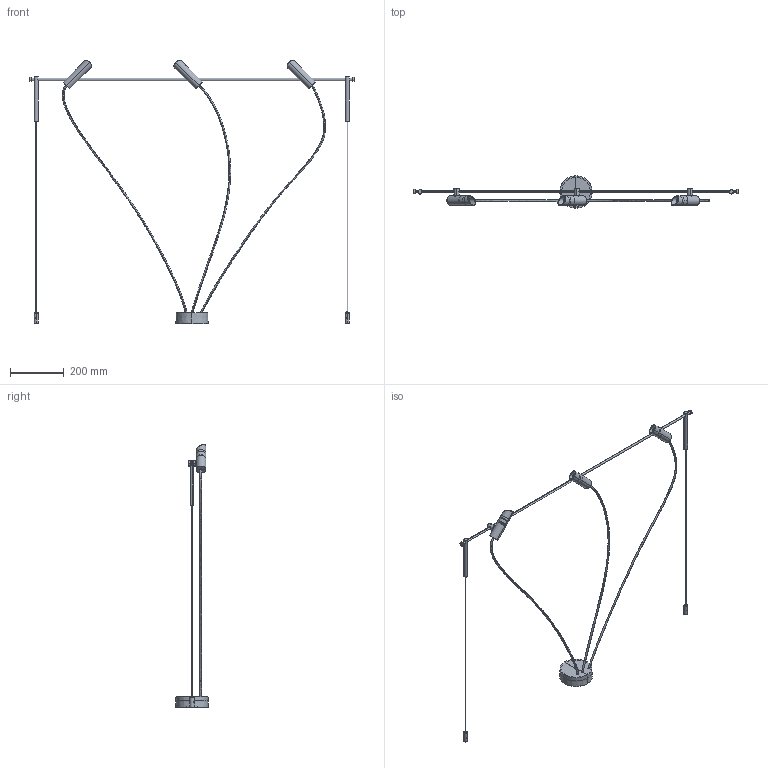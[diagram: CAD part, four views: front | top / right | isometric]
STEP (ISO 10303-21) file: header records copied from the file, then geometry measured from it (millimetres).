
FILE_DESCRIPTION(/* description */ (''),/* implementation_level */ '2;1');
FILE_NAME(/* name */ 'clap_pendant.step',/* time_stamp */ '2025-02-26T15:42:23+01:00',/* author */ ('RenataManzini'),/* organization */ (''),/* preprocessor_version */ 'ST-DEVELOPER v20',/* originating_system */ 'AutoCAD Mechanical',/* authorisation */ '');
FILE_SCHEMA (('AUTOMOTIVE_DESIGN { 1 0 10303 214 3 1 1 }'));
Length unit declared in the file: millimetre
Products named in the file (1): Product
Bounding box: 1201.33 x 120 x 975.69 mm (x, y, z)
Volume: 610170.1 mm3; surface area: 283061.3 mm2
Topology: 24 solids, 24 shells, 223 faces, 411 edges, 235 vertices
Faces by surface type: plane 107, cylinder 80, cone 22, bspline 10, torus 4
Entity records: 10921 total; most frequent: CARTESIAN_POINT 6514, DIRECTION 960, ORIENTED_EDGE 816, EDGE_CURVE 408, AXIS2_PLACEMENT_3D 399, EDGE_LOOP 236, VERTEX_POINT 232, FACE_OUTER_BOUND 223
